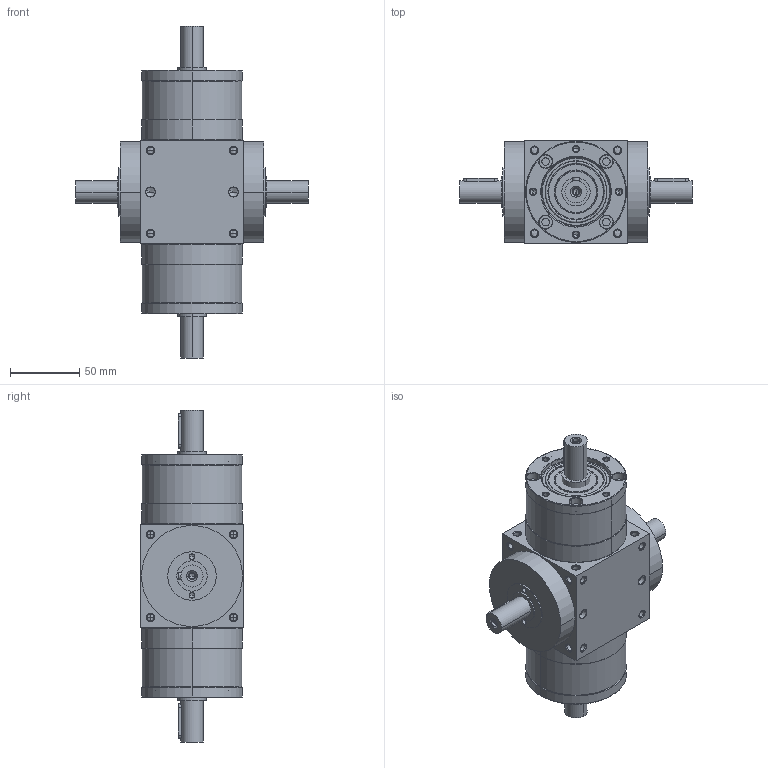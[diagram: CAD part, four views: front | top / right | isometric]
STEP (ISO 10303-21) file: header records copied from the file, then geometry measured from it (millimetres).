
FILE_DESCRIPTION((''),'2;1');
FILE_NAME('AT0754M-1_ASM','2010-02-09T',('d00080'),(''),'PRO/ENGINEER BY PARAMETRIC TECHNOLOGY CORPORATION, 2008170','PRO/ENGINEER BY PARAMETRIC TECHNOLOGY CORPORATION, 2008170','');
FILE_SCHEMA(('CONFIG_CONTROL_DESIGN'));
Length unit declared in the file: millimetre
Products named in the file (4): AT4M-HOUSING-1-3; P1801300001; 22400071003; AT0754M-1_ASM
Assembly tree (5 placements, depth 2):
  AT0754M-1_ASM
    AT4M-HOUSING-1-3
    P1801300001  x2
    22400071003  x2
Bounding box: 168 x 75 x 240 mm (x, y, z)
Volume: 836822.2 mm3; surface area: 138807.7 mm2
Topology: 7 solids, 43 shells, 792 faces, 1948 edges, 1156 vertices
Faces by surface type: cylinder 348, cone 260, plane 108, torus 68, bspline 8
Entity records: 18329 total; most frequent: CARTESIAN_POINT 4060, DIRECTION 3182, ORIENTED_EDGE 2732, EDGE_CURVE 1430, AXIS2_PLACEMENT_3D 1332, VERTEX_POINT 897, CIRCLE 724, EDGE_LOOP 701
